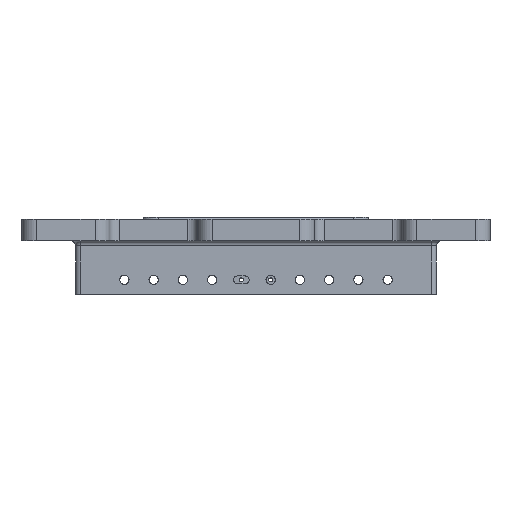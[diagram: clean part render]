
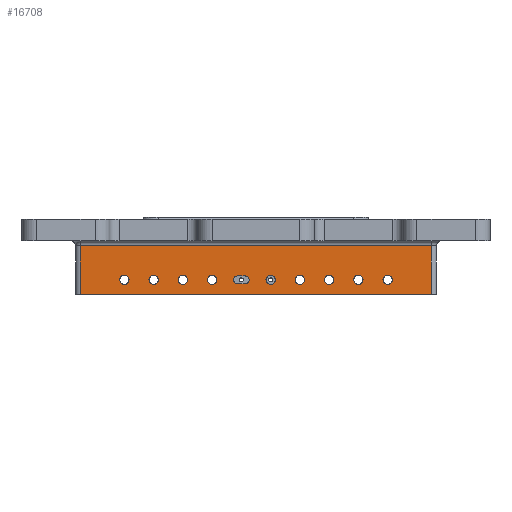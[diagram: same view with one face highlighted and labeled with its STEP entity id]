
A CAD part, left-side view. The second image highlights one B-rep face of the part: STEP entity #16708.
In plain terms, the highlighted planar face has unit normal (-1, 0, 0).
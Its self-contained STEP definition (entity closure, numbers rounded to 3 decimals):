
#9918=CARTESIAN_POINT('Vertex',(-260.,-180.,-55.)) ;
#9921=CARTESIAN_POINT('Line Origine',(-260.,0.,-55.)) ;
#9925=CARTESIAN_POINT('Vertex',(-260.,180.,-55.)) ;
#10806=CARTESIAN_POINT('Axis2P3D Location',(-260.,135.,-40.)) ;
#10810=CARTESIAN_POINT('Vertex',(-260.,139.169,-37.723)) ;
#10812=CARTESIAN_POINT('Vertex',(-260.,130.831,-42.277)) ;
#10837=CARTESIAN_POINT('Axis2P3D Location',(-260.,135.,-40.)) ;
#10854=CARTESIAN_POINT('Axis2P3D Location',(-260.,75.,-40.)) ;
#10858=CARTESIAN_POINT('Vertex',(-260.,79.169,-37.723)) ;
#10860=CARTESIAN_POINT('Vertex',(-260.,70.831,-42.277)) ;
#10885=CARTESIAN_POINT('Axis2P3D Location',(-260.,75.,-40.)) ;
#10902=CARTESIAN_POINT('Axis2P3D Location',(-260.,45.,-40.)) ;
#10906=CARTESIAN_POINT('Vertex',(-260.,49.169,-37.723)) ;
#10908=CARTESIAN_POINT('Vertex',(-260.,40.831,-42.277)) ;
#10933=CARTESIAN_POINT('Axis2P3D Location',(-260.,45.,-40.)) ;
#10950=CARTESIAN_POINT('Axis2P3D Location',(-260.,-15.,-40.)) ;
#10954=CARTESIAN_POINT('Vertex',(-260.,-10.831,-37.723)) ;
#10956=CARTESIAN_POINT('Vertex',(-260.,-19.169,-42.277)) ;
#10981=CARTESIAN_POINT('Axis2P3D Location',(-260.,-15.,-40.)) ;
#10998=CARTESIAN_POINT('Axis2P3D Location',(-260.,-45.,-40.)) ;
#11002=CARTESIAN_POINT('Vertex',(-260.,-40.831,-37.723)) ;
#11004=CARTESIAN_POINT('Vertex',(-260.,-49.169,-42.277)) ;
#11029=CARTESIAN_POINT('Axis2P3D Location',(-260.,-45.,-40.)) ;
#11046=CARTESIAN_POINT('Axis2P3D Location',(-260.,-75.,-40.)) ;
#11050=CARTESIAN_POINT('Vertex',(-260.,-70.831,-37.723)) ;
#11052=CARTESIAN_POINT('Vertex',(-260.,-79.169,-42.277)) ;
#11077=CARTESIAN_POINT('Axis2P3D Location',(-260.,-75.,-40.)) ;
#11094=CARTESIAN_POINT('Axis2P3D Location',(-260.,-105.,-40.)) ;
#11098=CARTESIAN_POINT('Vertex',(-260.,-100.831,-37.723)) ;
#11100=CARTESIAN_POINT('Vertex',(-260.,-109.169,-42.277)) ;
#11125=CARTESIAN_POINT('Axis2P3D Location',(-260.,-105.,-40.)) ;
#11142=CARTESIAN_POINT('Axis2P3D Location',(-260.,-135.,-40.)) ;
#11146=CARTESIAN_POINT('Vertex',(-260.,-130.831,-37.723)) ;
#11148=CARTESIAN_POINT('Vertex',(-260.,-139.169,-42.277)) ;
#11173=CARTESIAN_POINT('Axis2P3D Location',(-260.,-135.,-40.)) ;
#11190=CARTESIAN_POINT('Axis2P3D Location',(-260.,105.,-40.)) ;
#11194=CARTESIAN_POINT('Vertex',(-260.,100.831,-42.277)) ;
#11196=CARTESIAN_POINT('Vertex',(-260.,109.169,-37.723)) ;
#11221=CARTESIAN_POINT('Axis2P3D Location',(-260.,105.,-40.)) ;
#16596=CARTESIAN_POINT('Line Origine',(-260.,-180.,-27.5)) ;
#16600=CARTESIAN_POINT('Vertex',(-260.,-180.,-5.)) ;
#16615=CARTESIAN_POINT('Axis2P3D Location',(-260.,185.,0.)) ;
#16620=CARTESIAN_POINT('Line Origine',(-260.,0.,-5.)) ;
#16624=CARTESIAN_POINT('Vertex',(-260.,180.,-5.)) ;
#16627=CARTESIAN_POINT('Line Origine',(-260.,180.,-30.)) ;
#16638=CARTESIAN_POINT('Axis2P3D Location',(-260.,11.,-40.)) ;
#16642=CARTESIAN_POINT('Vertex',(-260.,11.,-44.)) ;
#16644=CARTESIAN_POINT('Vertex',(-260.,11.,-36.)) ;
#16647=CARTESIAN_POINT('Line Origine',(-260.,15.,-44.)) ;
#16651=CARTESIAN_POINT('Vertex',(-260.,19.,-44.)) ;
#16654=CARTESIAN_POINT('Axis2P3D Location',(-260.,19.,-40.)) ;
#16658=CARTESIAN_POINT('Vertex',(-260.,19.,-36.)) ;
#16661=CARTESIAN_POINT('Line Origine',(-260.,15.,-36.)) ;
#9922=DIRECTION('Vector Direction',(0.,-1.,0.)) ;
#10807=DIRECTION('Axis2P3D Direction',(1.,0.,-0.)) ;
#10838=DIRECTION('Axis2P3D Direction',(1.,0.,0.)) ;
#10855=DIRECTION('Axis2P3D Direction',(1.,0.,-0.)) ;
#10886=DIRECTION('Axis2P3D Direction',(1.,0.,0.)) ;
#10903=DIRECTION('Axis2P3D Direction',(1.,0.,-0.)) ;
#10934=DIRECTION('Axis2P3D Direction',(1.,0.,0.)) ;
#10951=DIRECTION('Axis2P3D Direction',(1.,0.,-0.)) ;
#10982=DIRECTION('Axis2P3D Direction',(1.,0.,0.)) ;
#10999=DIRECTION('Axis2P3D Direction',(1.,0.,-0.)) ;
#11030=DIRECTION('Axis2P3D Direction',(1.,0.,0.)) ;
#11047=DIRECTION('Axis2P3D Direction',(1.,0.,-0.)) ;
#11078=DIRECTION('Axis2P3D Direction',(1.,0.,0.)) ;
#11095=DIRECTION('Axis2P3D Direction',(1.,0.,-0.)) ;
#11126=DIRECTION('Axis2P3D Direction',(1.,0.,0.)) ;
#11143=DIRECTION('Axis2P3D Direction',(1.,0.,-0.)) ;
#11174=DIRECTION('Axis2P3D Direction',(1.,0.,0.)) ;
#11191=DIRECTION('Axis2P3D Direction',(1.,0.,0.)) ;
#11222=DIRECTION('Axis2P3D Direction',(1.,0.,-0.)) ;
#16597=DIRECTION('Vector Direction',(0.,0.,-1.)) ;
#16616=DIRECTION('Axis2P3D Direction',(1.,0.,0.)) ;
#16617=DIRECTION('Axis2P3D XDirection',(0.,-1.,0.)) ;
#16621=DIRECTION('Vector Direction',(0.,-1.,0.)) ;
#16628=DIRECTION('Vector Direction',(0.,0.,-1.)) ;
#16639=DIRECTION('Axis2P3D Direction',(1.,0.,0.)) ;
#16648=DIRECTION('Vector Direction',(0.,-1.,0.)) ;
#16655=DIRECTION('Axis2P3D Direction',(1.,0.,0.)) ;
#16662=DIRECTION('Vector Direction',(0.,-1.,0.)) ;
#10808=AXIS2_PLACEMENT_3D('Circle Axis2P3D',#10806,#10807,$) ;
#10839=AXIS2_PLACEMENT_3D('Circle Axis2P3D',#10837,#10838,$) ;
#10856=AXIS2_PLACEMENT_3D('Circle Axis2P3D',#10854,#10855,$) ;
#10887=AXIS2_PLACEMENT_3D('Circle Axis2P3D',#10885,#10886,$) ;
#10904=AXIS2_PLACEMENT_3D('Circle Axis2P3D',#10902,#10903,$) ;
#10935=AXIS2_PLACEMENT_3D('Circle Axis2P3D',#10933,#10934,$) ;
#10952=AXIS2_PLACEMENT_3D('Circle Axis2P3D',#10950,#10951,$) ;
#10983=AXIS2_PLACEMENT_3D('Circle Axis2P3D',#10981,#10982,$) ;
#11000=AXIS2_PLACEMENT_3D('Circle Axis2P3D',#10998,#10999,$) ;
#11031=AXIS2_PLACEMENT_3D('Circle Axis2P3D',#11029,#11030,$) ;
#11048=AXIS2_PLACEMENT_3D('Circle Axis2P3D',#11046,#11047,$) ;
#11079=AXIS2_PLACEMENT_3D('Circle Axis2P3D',#11077,#11078,$) ;
#11096=AXIS2_PLACEMENT_3D('Circle Axis2P3D',#11094,#11095,$) ;
#11127=AXIS2_PLACEMENT_3D('Circle Axis2P3D',#11125,#11126,$) ;
#11144=AXIS2_PLACEMENT_3D('Circle Axis2P3D',#11142,#11143,$) ;
#11175=AXIS2_PLACEMENT_3D('Circle Axis2P3D',#11173,#11174,$) ;
#11192=AXIS2_PLACEMENT_3D('Circle Axis2P3D',#11190,#11191,$) ;
#11223=AXIS2_PLACEMENT_3D('Circle Axis2P3D',#11221,#11222,$) ;
#16618=AXIS2_PLACEMENT_3D('Plane Axis2P3D',#16615,#16616,#16617) ;
#16640=AXIS2_PLACEMENT_3D('Circle Axis2P3D',#16638,#16639,$) ;
#16656=AXIS2_PLACEMENT_3D('Circle Axis2P3D',#16654,#16655,$) ;
#16633=ORIENTED_EDGE('',*,*,#16626,.F.) ;
#16634=ORIENTED_EDGE('',*,*,#16631,.T.) ;
#16635=ORIENTED_EDGE('',*,*,#9927,.F.) ;
#16636=ORIENTED_EDGE('',*,*,#16602,.F.) ;
#16667=ORIENTED_EDGE('',*,*,#16646,.F.) ;
#16668=ORIENTED_EDGE('',*,*,#16653,.F.) ;
#16669=ORIENTED_EDGE('',*,*,#16660,.F.) ;
#16670=ORIENTED_EDGE('',*,*,#16665,.F.) ;
#16673=ORIENTED_EDGE('',*,*,#10814,.T.) ;
#16674=ORIENTED_EDGE('',*,*,#10841,.T.) ;
#16677=ORIENTED_EDGE('',*,*,#10862,.T.) ;
#16678=ORIENTED_EDGE('',*,*,#10889,.T.) ;
#16681=ORIENTED_EDGE('',*,*,#10910,.T.) ;
#16682=ORIENTED_EDGE('',*,*,#10937,.T.) ;
#16685=ORIENTED_EDGE('',*,*,#10958,.T.) ;
#16686=ORIENTED_EDGE('',*,*,#10985,.T.) ;
#16689=ORIENTED_EDGE('',*,*,#11006,.T.) ;
#16690=ORIENTED_EDGE('',*,*,#11033,.T.) ;
#16693=ORIENTED_EDGE('',*,*,#11054,.T.) ;
#16694=ORIENTED_EDGE('',*,*,#11081,.T.) ;
#16697=ORIENTED_EDGE('',*,*,#11102,.T.) ;
#16698=ORIENTED_EDGE('',*,*,#11129,.T.) ;
#16701=ORIENTED_EDGE('',*,*,#11150,.T.) ;
#16702=ORIENTED_EDGE('',*,*,#11177,.T.) ;
#16705=ORIENTED_EDGE('',*,*,#11198,.T.) ;
#16706=ORIENTED_EDGE('',*,*,#11225,.T.) ;
#16671=FACE_BOUND('',#16666,.T.) ;
#16675=FACE_BOUND('',#16672,.T.) ;
#16679=FACE_BOUND('',#16676,.T.) ;
#16683=FACE_BOUND('',#16680,.T.) ;
#16687=FACE_BOUND('',#16684,.T.) ;
#16691=FACE_BOUND('',#16688,.T.) ;
#16695=FACE_BOUND('',#16692,.T.) ;
#16699=FACE_BOUND('',#16696,.T.) ;
#16703=FACE_BOUND('',#16700,.T.) ;
#16707=FACE_BOUND('',#16704,.T.) ;
#9923=VECTOR('Line Direction',#9922,1.) ;
#16598=VECTOR('Line Direction',#16597,1.) ;
#16622=VECTOR('Line Direction',#16621,1.) ;
#16629=VECTOR('Line Direction',#16628,1.) ;
#16649=VECTOR('Line Direction',#16648,1.) ;
#16663=VECTOR('Line Direction',#16662,1.) ;
#16708=ADVANCED_FACE('EGT017.1',(#16637,#16671,#16675,#16679,#16683,#16687,#16691,#16695,#16699,#16703,#16707),#16619,.F.) ;
#10809=CIRCLE('generated circle',#10808,4.75) ;
#10840=CIRCLE('generated circle',#10839,4.75) ;
#10857=CIRCLE('generated circle',#10856,4.75) ;
#10888=CIRCLE('generated circle',#10887,4.75) ;
#10905=CIRCLE('generated circle',#10904,4.75) ;
#10936=CIRCLE('generated circle',#10935,4.75) ;
#10953=CIRCLE('generated circle',#10952,4.75) ;
#10984=CIRCLE('generated circle',#10983,4.75) ;
#11001=CIRCLE('generated circle',#11000,4.75) ;
#11032=CIRCLE('generated circle',#11031,4.75) ;
#11049=CIRCLE('generated circle',#11048,4.75) ;
#11080=CIRCLE('generated circle',#11079,4.75) ;
#11097=CIRCLE('generated circle',#11096,4.75) ;
#11128=CIRCLE('generated circle',#11127,4.75) ;
#11145=CIRCLE('generated circle',#11144,4.75) ;
#11176=CIRCLE('generated circle',#11175,4.75) ;
#11193=CIRCLE('generated circle',#11192,4.75) ;
#11224=CIRCLE('generated circle',#11223,4.75) ;
#16641=CIRCLE('generated circle',#16640,4.) ;
#16657=CIRCLE('generated circle',#16656,4.) ;
#9927=EDGE_CURVE('',#9919,#9926,#9924,.F.) ;
#10814=EDGE_CURVE('',#10811,#10813,#10809,.T.) ;
#10841=EDGE_CURVE('',#10813,#10811,#10840,.T.) ;
#10862=EDGE_CURVE('',#10859,#10861,#10857,.T.) ;
#10889=EDGE_CURVE('',#10861,#10859,#10888,.T.) ;
#10910=EDGE_CURVE('',#10907,#10909,#10905,.T.) ;
#10937=EDGE_CURVE('',#10909,#10907,#10936,.T.) ;
#10958=EDGE_CURVE('',#10955,#10957,#10953,.T.) ;
#10985=EDGE_CURVE('',#10957,#10955,#10984,.T.) ;
#11006=EDGE_CURVE('',#11003,#11005,#11001,.T.) ;
#11033=EDGE_CURVE('',#11005,#11003,#11032,.T.) ;
#11054=EDGE_CURVE('',#11051,#11053,#11049,.T.) ;
#11081=EDGE_CURVE('',#11053,#11051,#11080,.T.) ;
#11102=EDGE_CURVE('',#11099,#11101,#11097,.T.) ;
#11129=EDGE_CURVE('',#11101,#11099,#11128,.T.) ;
#11150=EDGE_CURVE('',#11147,#11149,#11145,.T.) ;
#11177=EDGE_CURVE('',#11149,#11147,#11176,.T.) ;
#11198=EDGE_CURVE('',#11195,#11197,#11193,.T.) ;
#11225=EDGE_CURVE('',#11197,#11195,#11224,.T.) ;
#16602=EDGE_CURVE('',#16601,#9919,#16599,.T.) ;
#16626=EDGE_CURVE('',#16625,#16601,#16623,.T.) ;
#16631=EDGE_CURVE('',#16625,#9926,#16630,.T.) ;
#16646=EDGE_CURVE('',#16643,#16645,#16641,.F.) ;
#16653=EDGE_CURVE('',#16652,#16643,#16650,.T.) ;
#16660=EDGE_CURVE('',#16659,#16652,#16657,.F.) ;
#16665=EDGE_CURVE('',#16645,#16659,#16664,.F.) ;
#16632=EDGE_LOOP('',(#16633,#16634,#16635,#16636)) ;
#16666=EDGE_LOOP('',(#16667,#16668,#16669,#16670)) ;
#16672=EDGE_LOOP('',(#16673,#16674)) ;
#16676=EDGE_LOOP('',(#16677,#16678)) ;
#16680=EDGE_LOOP('',(#16681,#16682)) ;
#16684=EDGE_LOOP('',(#16685,#16686)) ;
#16688=EDGE_LOOP('',(#16689,#16690)) ;
#16692=EDGE_LOOP('',(#16693,#16694)) ;
#16696=EDGE_LOOP('',(#16697,#16698)) ;
#16700=EDGE_LOOP('',(#16701,#16702)) ;
#16704=EDGE_LOOP('',(#16705,#16706)) ;
#16637=FACE_OUTER_BOUND('',#16632,.T.) ;
#9924=LINE('Line',#9921,#9923) ;
#16599=LINE('Line',#16596,#16598) ;
#16623=LINE('Line',#16620,#16622) ;
#16630=LINE('Line',#16627,#16629) ;
#16650=LINE('Line',#16647,#16649) ;
#16664=LINE('Line',#16661,#16663) ;
#16619=PLANE('',#16618) ;
#9919=VERTEX_POINT('',#9918) ;
#9926=VERTEX_POINT('',#9925) ;
#10811=VERTEX_POINT('',#10810) ;
#10813=VERTEX_POINT('',#10812) ;
#10859=VERTEX_POINT('',#10858) ;
#10861=VERTEX_POINT('',#10860) ;
#10907=VERTEX_POINT('',#10906) ;
#10909=VERTEX_POINT('',#10908) ;
#10955=VERTEX_POINT('',#10954) ;
#10957=VERTEX_POINT('',#10956) ;
#11003=VERTEX_POINT('',#11002) ;
#11005=VERTEX_POINT('',#11004) ;
#11051=VERTEX_POINT('',#11050) ;
#11053=VERTEX_POINT('',#11052) ;
#11099=VERTEX_POINT('',#11098) ;
#11101=VERTEX_POINT('',#11100) ;
#11147=VERTEX_POINT('',#11146) ;
#11149=VERTEX_POINT('',#11148) ;
#11195=VERTEX_POINT('',#11194) ;
#11197=VERTEX_POINT('',#11196) ;
#16601=VERTEX_POINT('',#16600) ;
#16625=VERTEX_POINT('',#16624) ;
#16643=VERTEX_POINT('',#16642) ;
#16645=VERTEX_POINT('',#16644) ;
#16652=VERTEX_POINT('',#16651) ;
#16659=VERTEX_POINT('',#16658) ;
